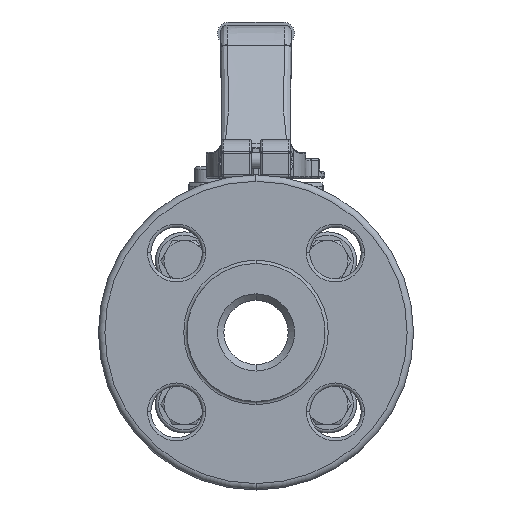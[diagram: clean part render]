
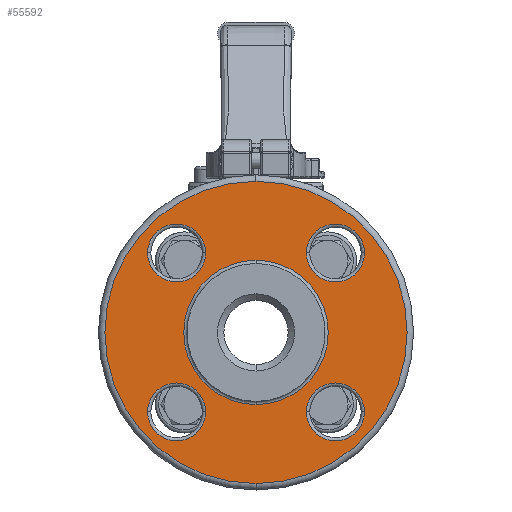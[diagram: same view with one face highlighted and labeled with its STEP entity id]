
A CAD part, left-side view. The second image highlights one B-rep face of the part: STEP entity #55592.
In plain terms, the highlighted planar face has unit normal (-1, 0, 0).
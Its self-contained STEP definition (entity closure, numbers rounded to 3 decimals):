
#55=CARTESIAN_POINT('',(-40.4,0.,0.));
#56=DIRECTION('',(-1.,0.,0.));
#57=DIRECTION('',(0.,0.,1.));
#58=AXIS2_PLACEMENT_3D('',#55,#56,#57);
#75=CARTESIAN_POINT('',(-40.4,0.,0.));
#76=DIRECTION('',(1.,0.,0.));
#77=DIRECTION('',(0.,0.,-1.));
#78=AXIS2_PLACEMENT_3D('',#75,#76,#77);
#98=CARTESIAN_POINT('',(-40.4,0.,0.));
#99=DIRECTION('',(1.,0.,0.));
#100=DIRECTION('',(0.,0.,1.));
#101=AXIS2_PLACEMENT_3D('',#98,#99,#100);
#45493=CARTESIAN_POINT('',(-40.4,24.713,24.713));
#45494=DIRECTION('',(1.,0.,0.));
#45495=DIRECTION('',(0.,1.,0.));
#45496=AXIS2_PLACEMENT_3D('',#45493,#45494,#45495);
#45508=CARTESIAN_POINT('',(-40.4,24.713,24.713));
#45509=DIRECTION('',(1.,0.,0.));
#45510=DIRECTION('',(0.,-1.,0.));
#45511=AXIS2_PLACEMENT_3D('',#45508,#45509,#45510);
#45561=CARTESIAN_POINT('',(-40.4,-24.713,24.713));
#45562=DIRECTION('',(1.,0.,0.));
#45563=DIRECTION('',(0.,-1.,0.));
#45564=AXIS2_PLACEMENT_3D('',#45561,#45562,#45563);
#45576=CARTESIAN_POINT('',(-40.4,-24.713,24.713));
#45577=DIRECTION('',(1.,0.,0.));
#45578=DIRECTION('',(0.,1.,0.));
#45579=AXIS2_PLACEMENT_3D('',#45576,#45577,#45578);
#45629=CARTESIAN_POINT('',(-40.4,-24.713,-24.713));
#45630=DIRECTION('',(1.,0.,0.));
#45631=DIRECTION('',(0.,1.,0.));
#45632=AXIS2_PLACEMENT_3D('',#45629,#45630,#45631);
#45644=CARTESIAN_POINT('',(-40.4,-24.713,-24.713));
#45645=DIRECTION('',(1.,0.,0.));
#45646=DIRECTION('',(0.,-1.,0.));
#45647=AXIS2_PLACEMENT_3D('',#45644,#45645,#45646);
#45697=CARTESIAN_POINT('',(-40.4,24.713,-24.713));
#45698=DIRECTION('',(1.,0.,0.));
#45699=DIRECTION('',(0.,-1.,0.));
#45700=AXIS2_PLACEMENT_3D('',#45697,#45698,#45699);
#45712=CARTESIAN_POINT('',(-40.4,24.713,-24.713));
#45713=DIRECTION('',(1.,0.,0.));
#45714=DIRECTION('',(0.,1.,0.));
#45715=AXIS2_PLACEMENT_3D('',#45712,#45713,#45714);
#45731=CARTESIAN_POINT('',(-40.4,0.,0.));
#45732=DIRECTION('',(-1.,0.,0.));
#45733=DIRECTION('',(0.,0.,-1.));
#45734=AXIS2_PLACEMENT_3D('',#45731,#45732,#45733);
#45762=CARTESIAN_POINT('',(-40.4,0.,-47.));
#45763=CARTESIAN_POINT('',(-40.4,0.,47.));
#45764=VERTEX_POINT('',#45762);
#45765=VERTEX_POINT('',#45763);
#46654=CARTESIAN_POINT('',(-40.4,33.713,24.713));
#46655=CARTESIAN_POINT('',(-40.4,15.713,24.713));
#46656=VERTEX_POINT('',#46654);
#46657=VERTEX_POINT('',#46655);
#46670=CARTESIAN_POINT('',(-40.4,-33.713,24.713));
#46671=CARTESIAN_POINT('',(-40.4,-15.713,24.713));
#46672=VERTEX_POINT('',#46670);
#46673=VERTEX_POINT('',#46671);
#46686=CARTESIAN_POINT('',(-40.4,-15.713,-24.713));
#46687=CARTESIAN_POINT('',(-40.4,-33.713,-24.713));
#46688=VERTEX_POINT('',#46686);
#46689=VERTEX_POINT('',#46687);
#46702=CARTESIAN_POINT('',(-40.4,33.713,-24.713));
#46703=CARTESIAN_POINT('',(-40.4,15.713,-24.713));
#46704=VERTEX_POINT('',#46702);
#46705=VERTEX_POINT('',#46703);
#47315=CARTESIAN_POINT('',(-40.4,0.,-22.45));
#47316=CARTESIAN_POINT('',(-40.4,0.,22.45));
#47317=VERTEX_POINT('',#47315);
#47318=VERTEX_POINT('',#47316);
#55552=CARTESIAN_POINT('',(-40.4,0.,0.));
#55553=DIRECTION('',(-1.,0.,0.));
#55554=DIRECTION('',(0.,0.,1.));
#55555=AXIS2_PLACEMENT_3D('',#55552,#55553,#55554);
#55556=PLANE('',#55555);
#55558=ORIENTED_EDGE('',*,*,#55557,.T.);
#55560=ORIENTED_EDGE('',*,*,#55559,.T.);
#55561=EDGE_LOOP('',(#55558,#55560));
#55562=FACE_OUTER_BOUND('',#55561,.F.);
#55564=ORIENTED_EDGE('',*,*,#55563,.T.);
#55565=ORIENTED_EDGE('',*,*,#55542,.T.);
#55566=EDGE_LOOP('',(#55564,#55565));
#55567=FACE_BOUND('',#55566,.F.);
#55569=ORIENTED_EDGE('',*,*,#55568,.F.);
#55571=ORIENTED_EDGE('',*,*,#55570,.F.);
#55572=EDGE_LOOP('',(#55569,#55571));
#55573=FACE_BOUND('',#55572,.F.);
#55575=ORIENTED_EDGE('',*,*,#55574,.F.);
#55577=ORIENTED_EDGE('',*,*,#55576,.F.);
#55578=EDGE_LOOP('',(#55575,#55577));
#55579=FACE_BOUND('',#55578,.F.);
#55581=ORIENTED_EDGE('',*,*,#55580,.F.);
#55583=ORIENTED_EDGE('',*,*,#55582,.F.);
#55584=EDGE_LOOP('',(#55581,#55583));
#55585=FACE_BOUND('',#55584,.F.);
#55587=ORIENTED_EDGE('',*,*,#55586,.F.);
#55589=ORIENTED_EDGE('',*,*,#55588,.F.);
#55590=EDGE_LOOP('',(#55587,#55589));
#55591=FACE_BOUND('',#55590,.F.);
#55592=ADVANCED_FACE('',(#55562,#55567,#55573,#55579,#55585,#55591),#55556,.T.);
#59=CIRCLE('',#58,22.45);
#79=CIRCLE('',#78,47.);
#102=CIRCLE('',#101,47.);
#45497=CIRCLE('',#45496,9.);
#45512=CIRCLE('',#45511,9.);
#45565=CIRCLE('',#45564,9.);
#45580=CIRCLE('',#45579,9.);
#45633=CIRCLE('',#45632,9.);
#45648=CIRCLE('',#45647,9.);
#45701=CIRCLE('',#45700,9.);
#45716=CIRCLE('',#45715,9.);
#45735=CIRCLE('',#45734,22.45);
#55542=EDGE_CURVE('',#47318,#47317,#59,.T.);
#55557=EDGE_CURVE('',#45764,#45765,#79,.T.);
#55559=EDGE_CURVE('',#45765,#45764,#102,.T.);
#55563=EDGE_CURVE('',#47317,#47318,#45735,.T.);
#55568=EDGE_CURVE('',#46656,#46657,#45497,.T.);
#55570=EDGE_CURVE('',#46657,#46656,#45512,.T.);
#55574=EDGE_CURVE('',#46672,#46673,#45565,.T.);
#55576=EDGE_CURVE('',#46673,#46672,#45580,.T.);
#55580=EDGE_CURVE('',#46688,#46689,#45633,.T.);
#55582=EDGE_CURVE('',#46689,#46688,#45648,.T.);
#55586=EDGE_CURVE('',#46704,#46705,#45716,.T.);
#55588=EDGE_CURVE('',#46705,#46704,#45701,.T.);
